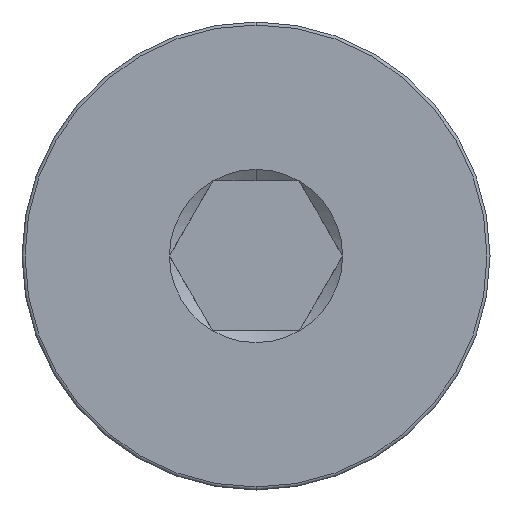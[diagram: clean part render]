
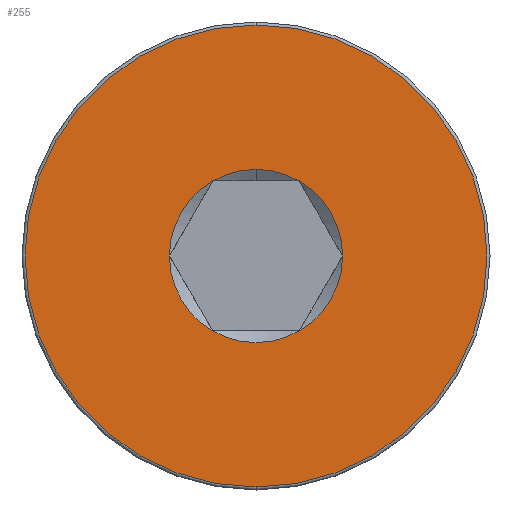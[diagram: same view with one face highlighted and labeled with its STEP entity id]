
A CAD part, left-side view. The second image highlights one B-rep face of the part: STEP entity #255.
In plain terms, the highlighted planar face has unit normal (-1, 0, 0).
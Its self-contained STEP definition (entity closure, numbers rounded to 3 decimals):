
#3 = DIRECTION ( 'NONE',  ( 0., 0., -1. ) ) ;
#21 = VERTEX_POINT ( 'NONE', #433 ) ;
#43 = DIRECTION ( 'NONE',  ( 0., 0., 1. ) ) ;
#47 = DIRECTION ( 'NONE',  ( 0., 0., -1. ) ) ;
#53 = EDGE_CURVE ( 'NONE', #390, #271, #746, .T. ) ;
#56 = DIRECTION ( 'NONE',  ( 1., 0., 0. ) ) ;
#62 = ORIENTED_EDGE ( 'NONE', *, *, #425, .T. ) ;
#66 = CARTESIAN_POINT ( 'NONE',  ( 0., -1.443, 0. ) ) ;
#83 = CARTESIAN_POINT ( 'NONE',  ( 0., 0., -3.85 ) ) ;
#85 = ORIENTED_EDGE ( 'NONE', *, *, #495, .T. ) ;
#86 = DIRECTION ( 'NONE',  ( -1., 0., 0. ) ) ;
#104 = CARTESIAN_POINT ( 'NONE',  ( 0., 0., 0. ) ) ;
#107 = DIRECTION ( 'NONE',  ( 1., 0., 0. ) ) ;
#112 = CARTESIAN_POINT ( 'NONE',  ( 0., 0., 0. ) ) ;
#124 = AXIS2_PLACEMENT_3D ( 'NONE', #104, #107, #347 ) ;
#127 = DIRECTION ( 'NONE',  ( 1., 0., 0. ) ) ;
#137 = DIRECTION ( 'NONE',  ( 0., 0., 1. ) ) ;
#152 = CARTESIAN_POINT ( 'NONE',  ( 0., 0., 0. ) ) ;
#157 = ORIENTED_EDGE ( 'NONE', *, *, #767, .T. ) ;
#175 = ORIENTED_EDGE ( 'NONE', *, *, #235, .T. ) ;
#192 = CARTESIAN_POINT ( 'NONE',  ( 0., 0., 0. ) ) ;
#204 = DIRECTION ( 'NONE',  ( 1., 0., 0. ) ) ;
#206 = VERTEX_POINT ( 'NONE', #83 ) ;
#212 = AXIS2_PLACEMENT_3D ( 'NONE', #213, #86, #137 ) ;
#213 = CARTESIAN_POINT ( 'NONE',  ( 0., 0., 0. ) ) ;
#216 = ORIENTED_EDGE ( 'NONE', *, *, #53, .T. ) ;
#223 = VERTEX_POINT ( 'NONE', #578 ) ;
#226 = AXIS2_PLACEMENT_3D ( 'NONE', #672, #127, #308 ) ;
#233 = VERTEX_POINT ( 'NONE', #542 ) ;
#235 = EDGE_CURVE ( 'NONE', #21, #223, #760, .T. ) ;
#255 = ADVANCED_FACE ( 'NONE', ( #412, #406 ), #294, .T. ) ;
#266 = CARTESIAN_POINT ( 'NONE',  ( 0., 0.722, -1.25 ) ) ;
#271 = VERTEX_POINT ( 'NONE', #537 ) ;
#289 = CIRCLE ( 'NONE', #736, 3.85 ) ;
#294 = PLANE ( 'NONE',  #415 ) ;
#297 = CARTESIAN_POINT ( 'NONE',  ( 0., 0., 0. ) ) ;
#300 = DIRECTION ( 'NONE',  ( 0., 0., -1. ) ) ;
#308 = DIRECTION ( 'NONE',  ( 0., 0., -1. ) ) ;
#318 = VERTEX_POINT ( 'NONE', #657 ) ;
#325 = AXIS2_PLACEMENT_3D ( 'NONE', #112, #414, #354 ) ;
#347 = DIRECTION ( 'NONE',  ( 0., 0., -1. ) ) ;
#348 = EDGE_CURVE ( 'NONE', #318, #390, #432, .T. ) ;
#354 = DIRECTION ( 'NONE',  ( 0., 0., -1. ) ) ;
#363 = AXIS2_PLACEMENT_3D ( 'NONE', #784, #600, #47 ) ;
#365 = CIRCLE ( 'NONE', #226, 1.443 ) ;
#390 = VERTEX_POINT ( 'NONE', #66 ) ;
#394 = ORIENTED_EDGE ( 'NONE', *, *, #618, .T. ) ;
#406 = FACE_BOUND ( 'NONE', #682, .T. ) ;
#412 = FACE_OUTER_BOUND ( 'NONE', #787, .T. ) ;
#414 = DIRECTION ( 'NONE',  ( 1., 0., 0. ) ) ;
#415 = AXIS2_PLACEMENT_3D ( 'NONE', #297, #786, #43 ) ;
#416 = AXIS2_PLACEMENT_3D ( 'NONE', #751, #204, #449 ) ;
#425 = EDGE_CURVE ( 'NONE', #547, #652, #634, .T. ) ;
#432 = CIRCLE ( 'NONE', #124, 1.443 ) ;
#433 = CARTESIAN_POINT ( 'NONE',  ( 0., 0.722, 1.25 ) ) ;
#444 = CIRCLE ( 'NONE', #416, 1.443 ) ;
#448 = ORIENTED_EDGE ( 'NONE', *, *, #625, .T. ) ;
#449 = DIRECTION ( 'NONE',  ( 0., 0., -1. ) ) ;
#483 = AXIS2_PLACEMENT_3D ( 'NONE', #677, #553, #3 ) ;
#484 = AXIS2_PLACEMENT_3D ( 'NONE', #192, #56, #300 ) ;
#495 = EDGE_CURVE ( 'NONE', #271, #547, #365, .T. ) ;
#537 = CARTESIAN_POINT ( 'NONE',  ( 0., -0.722, -1.25 ) ) ;
#542 = CARTESIAN_POINT ( 'NONE',  ( 0., 0., 3.85 ) ) ;
#547 = VERTEX_POINT ( 'NONE', #266 ) ;
#553 = DIRECTION ( 'NONE',  ( 1., 0., 0. ) ) ;
#564 = EDGE_CURVE ( 'NONE', #206, #233, #748, .T. ) ;
#565 = DIRECTION ( 'NONE',  ( 0., 0., 1. ) ) ;
#578 = CARTESIAN_POINT ( 'NONE',  ( 0., 0., 1.443 ) ) ;
#600 = DIRECTION ( 'NONE',  ( 1., 0., 0. ) ) ;
#612 = CIRCLE ( 'NONE', #325, 1.443 ) ;
#618 = EDGE_CURVE ( 'NONE', #233, #206, #289, .T. ) ;
#625 = EDGE_CURVE ( 'NONE', #223, #318, #444, .T. ) ;
#626 = DIRECTION ( 'NONE',  ( -1., 0., 0. ) ) ;
#627 = ORIENTED_EDGE ( 'NONE', *, *, #564, .T. ) ;
#634 = CIRCLE ( 'NONE', #484, 1.443 ) ;
#652 = VERTEX_POINT ( 'NONE', #774 ) ;
#657 = CARTESIAN_POINT ( 'NONE',  ( 0., -0.722, 1.25 ) ) ;
#672 = CARTESIAN_POINT ( 'NONE',  ( 0., 0., 0. ) ) ;
#677 = CARTESIAN_POINT ( 'NONE',  ( 0., 0., 0. ) ) ;
#682 = EDGE_LOOP ( 'NONE', ( #157, #175, #448, #785, #216, #85, #62 ) ) ;
#736 = AXIS2_PLACEMENT_3D ( 'NONE', #152, #626, #565 ) ;
#746 = CIRCLE ( 'NONE', #483, 1.443 ) ;
#748 = CIRCLE ( 'NONE', #212, 3.85 ) ;
#751 = CARTESIAN_POINT ( 'NONE',  ( 0., 0., 0. ) ) ;
#760 = CIRCLE ( 'NONE', #363, 1.443 ) ;
#767 = EDGE_CURVE ( 'NONE', #652, #21, #612, .T. ) ;
#774 = CARTESIAN_POINT ( 'NONE',  ( 0., 1.443, 0. ) ) ;
#784 = CARTESIAN_POINT ( 'NONE',  ( 0., 0., 0. ) ) ;
#785 = ORIENTED_EDGE ( 'NONE', *, *, #348, .T. ) ;
#786 = DIRECTION ( 'NONE',  ( -1., 0., 0. ) ) ;
#787 = EDGE_LOOP ( 'NONE', ( #394, #627 ) ) ;
